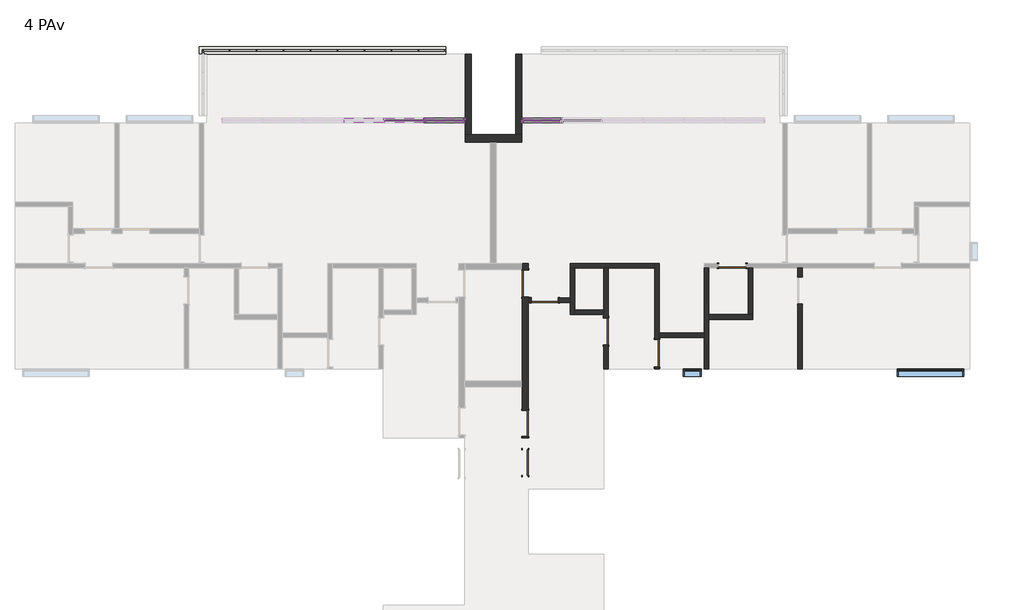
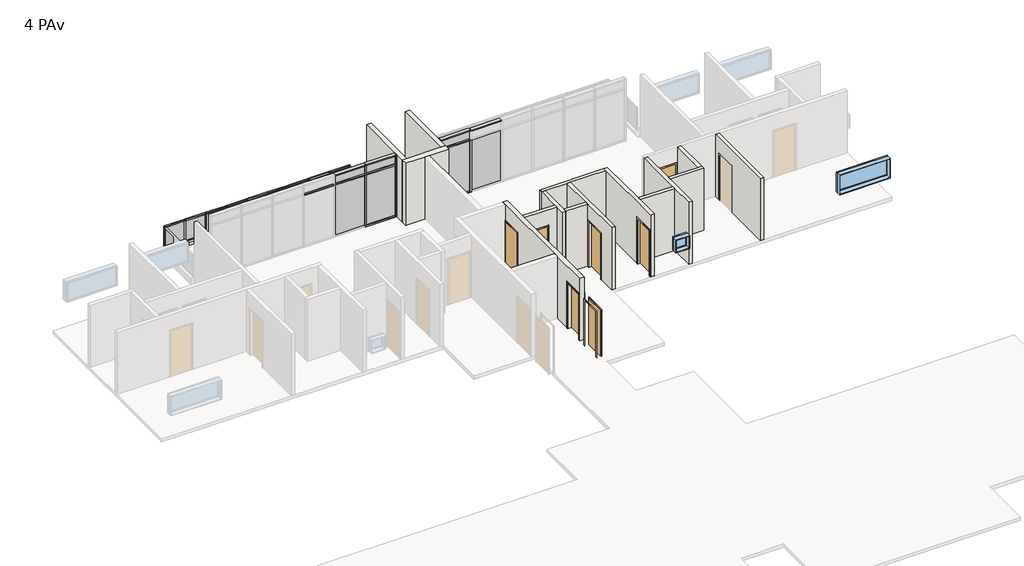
# One storey, part 5 of 6: 47 members, 17 plates, 16 walls, 7 doors, 2 windows.
"""IFC4 building model written with IfcOpenShell, lengths in millimetres."""

from ifc_helpers import new_model, si_unit, frame, origin, place, context, project, spatial, polyline, outline, extrude, faceted_brep, transform, mapped, element, save
from components import door_85_x_210_ba3adec2, door_85_x_210_7675e995, door_90_x_210_2c83007d, door_90_x_210_ee935524, door_90_x_210_565370b3, montante_retangular_50_mm_quadrado_4acded50, montante_retangular_50_mm_quadrado_237d7072, montante_retangular_50_mm_quadrado_84e40a56, montante_retangular_50_mm_quadrado_3d152aff, montante_retangular_50_mm_quadrado_a01005a4, montante_retangular_50_x_150_mm_6217edde, montante_retangular_50_x_150_mm_a22249d7, montante_retangular_50_x_150_mm_6225e4e3, montante_retangular_50_x_150_mm_662c37b1, montante_retangular_50_x_150_mm_567eccab, montante_retangular_50_x_150_mm_1ca2bba2, montante_retangular_50_x_150_mm_6abf4531, montante_retangular_50_x_150_mm_0a8c3443, painel_do_sistema_57ceaf50, painel_do_sistema_ab0ed719, painel_do_sistema_0196877a, painel_do_sistema_1ecb5f42, painel_do_sistema_49db1829, painel_do_sistema_5ea5287b, painel_do_sistema_7730abee, window_0610_x_0610_mm_b5667cc9, window_220_x_90_cea65aae

model = new_model("IFC4")

# Units and contexts
model_context = context("Model", 3, world=origin())
ifc_project = project(units=[si_unit("LENGTHUNIT", "METRE", prefix="MILLI")], contexts=[model_context])

# Site, building, storey
site = spatial("IfcSite", under=ifc_project)
building = spatial("IfcBuilding", under=site)
storey = spatial("IfcBuildingStorey", under=building, Name="4 PAv", Elevation=12000.0)

# Doors
placement = place(None, origin())
door_85_x_210_shape = door_85_x_210_ba3adec2(model_context)
element("IfcDoor", 1, ObjectType="M_Descarga simples : 85 x 210", at=placement, inside=storey, context=model_context, shape_type="MappedRepresentation", body=[
    mapped(door_85_x_210_shape, transform((23.7734258, 2728.6614625, 12000.0), x_axis=(0.0, 1.0, 0.0), y_axis=(-1.0, 0.0, 0.0), z_axis=(0.0, 0.0, 1.0))),
])
door_85_x_210_2_shape = door_85_x_210_7675e995(model_context)
element("IfcDoor", 2, ObjectType="M_Descarga simples : 85 x 210", at=placement, inside=storey, context=model_context, shape_type="MappedRepresentation", body=[
    mapped(door_85_x_210_2_shape, transform((23.7734258, 4028.6614625, 12000.0), x_axis=(0.0, -1.0, 0.0), y_axis=(1.0, 0.0, 0.0), z_axis=(0.0, 0.0, 1.0))),
])
door_90_x_210_shape = door_90_x_210_2c83007d(model_context)
element("IfcDoor", 3, ObjectType="M_Descarga simples : 90 x 210", at=placement, inside=storey, context=model_context, shape_type="MappedRepresentation", body=[
    mapped(door_90_x_210_shape, transform((23.7734258, 8673.2521762, 12000.0), x_axis=(0.0, 1.0, 0.0), y_axis=(-1.0, 0.0, 0.0), z_axis=(0.0, 0.0, 1.0))),
])
door_90_x_210_2_shape = door_90_x_210_ee935524(model_context)
element("IfcDoor", 4, ObjectType="M_Descarga simples : 90 x 210", at=placement, inside=storey, context=model_context, shape_type="MappedRepresentation", body=[
    mapped(door_90_x_210_2_shape, transform((673.7734258, 8118.6614625, 12000.0), x_axis=(-1.0, 0.0, 0.0), y_axis=(0.0, -1.0, 0.0), z_axis=(0.0, 0.0, 1.0))),
])
element("IfcDoor", 5, ObjectType="M_Descarga simples : 90 x 210", at=placement, inside=storey, context=model_context, shape_type="MappedRepresentation", body=[
    mapped(door_90_x_210_2_shape, transform((2698.7734258, 7083.6614625, 12000.0), x_axis=(0.0, -1.0, 0.0), y_axis=(1.0, 0.0, 0.0), z_axis=(0.0, 0.0, 1.0))),
])
element("IfcDoor", 6, ObjectType="M_Descarga simples : 90 x 210", at=placement, inside=storey, context=model_context, shape_type="MappedRepresentation", body=[
    mapped(door_90_x_210_2_shape, transform((4388.7734258, 6358.6614625, 12000.0), x_axis=(0.0, -1.0, 0.0), y_axis=(1.0, 0.0, 0.0), z_axis=(0.0, 0.0, 1.0))),
])
door_90_x_210_3_shape = door_90_x_210_565370b3(model_context)
element("IfcDoor", 7, ObjectType="M_Descarga simples : 90 x 210", at=placement, inside=storey, context=model_context, shape_type="MappedRepresentation", body=[
    mapped(door_90_x_210_3_shape, transform((6883.7734258, 9258.6614625, 12000.0), x_axis=(1.0, 0.0, 0.0), y_axis=(0.0, 1.0, 0.0), z_axis=(0.0, 0.0, 1.0))),
])

# Members
montante_retangular_50_mm_quadrado_shape = montante_retangular_50_mm_quadrado_4acded50(model_context)
element("IfcMember", 8, ObjectType="Montante retangular : 50 mm Quadrado", at=placement, inside=storey, context=model_context, shape_type="MappedRepresentation", body=[
    mapped(montante_retangular_50_mm_quadrado_shape, transform((-10616.2265742, 16403.6614625, 13150.0), x_axis=(0.0, 0.0, 1.0), y_axis=(0.0, 1.0, 0.0), z_axis=(-1.0, 0.0, 0.0))),
])
element("IfcMember", 9, ObjectType="Montante retangular : 50 mm Quadrado", at=placement, inside=storey, context=model_context, shape_type="MappedRepresentation", body=[
    mapped(montante_retangular_50_mm_quadrado_shape, transform((-3481.2265742, 16403.6614625, 13150.0), x_axis=(0.0, 0.0, 1.0), y_axis=(0.0, 1.0, 0.0), z_axis=(-1.0, 0.0, 0.0))),
])
montante_retangular_50_mm_quadrado_2_shape = montante_retangular_50_mm_quadrado_237d7072(model_context)
element("IfcMember", 10, ObjectType="Montante retangular : 50 mm Quadrado", at=placement, inside=storey, context=model_context, shape_type="MappedRepresentation", body=[
    mapped(montante_retangular_50_mm_quadrado_2_shape, transform((-4376.2265742, 16403.6614625, 13150.0), x_axis=(0.0, 0.0, 1.0), y_axis=(0.0, 1.0, 0.0), z_axis=(-1.0, 0.0, 0.0))),
])
element("IfcMember", 11, ObjectType="Montante retangular : 50 mm Quadrado", at=placement, inside=storey, context=model_context, shape_type="MappedRepresentation", body=[
    mapped(montante_retangular_50_mm_quadrado_2_shape, transform((-5271.2265742, 16403.6614625, 13150.0), x_axis=(0.0, 0.0, 1.0), y_axis=(0.0, 1.0, 0.0), z_axis=(-1.0, 0.0, 0.0))),
])
element("IfcMember", 12, ObjectType="Montante retangular : 50 mm Quadrado", at=placement, inside=storey, context=model_context, shape_type="MappedRepresentation", body=[
    mapped(montante_retangular_50_mm_quadrado_2_shape, transform((-6166.2265742, 16403.6614625, 13150.0), x_axis=(0.0, 0.0, 1.0), y_axis=(0.0, 1.0, 0.0), z_axis=(-1.0, 0.0, 0.0))),
])
element("IfcMember", 13, ObjectType="Montante retangular : 50 mm Quadrado", at=placement, inside=storey, context=model_context, shape_type="MappedRepresentation", body=[
    mapped(montante_retangular_50_mm_quadrado_2_shape, transform((-7061.2265742, 16403.6614625, 13150.0), x_axis=(0.0, 0.0, 1.0), y_axis=(0.0, 1.0, 0.0), z_axis=(-1.0, 0.0, 0.0))),
])
element("IfcMember", 14, ObjectType="Montante retangular : 50 mm Quadrado", at=placement, inside=storey, context=model_context, shape_type="MappedRepresentation", body=[
    mapped(montante_retangular_50_mm_quadrado_2_shape, transform((-7956.2265742, 16403.6614625, 13150.0), x_axis=(0.0, 0.0, 1.0), y_axis=(0.0, 1.0, 0.0), z_axis=(-1.0, 0.0, 0.0))),
])
element("IfcMember", 15, ObjectType="Montante retangular : 50 mm Quadrado", at=placement, inside=storey, context=model_context, shape_type="MappedRepresentation", body=[
    mapped(montante_retangular_50_mm_quadrado_2_shape, transform((-8851.2265742, 16403.6614625, 13150.0), x_axis=(0.0, 0.0, 1.0), y_axis=(0.0, 1.0, 0.0), z_axis=(-1.0, 0.0, 0.0))),
])
element("IfcMember", 16, ObjectType="Montante retangular : 50 mm Quadrado", at=placement, inside=storey, context=model_context, shape_type="MappedRepresentation", body=[
    mapped(montante_retangular_50_mm_quadrado_2_shape, transform((-9746.2265742, 16403.6614625, 13150.0), x_axis=(0.0, 0.0, 1.0), y_axis=(0.0, 1.0, 0.0), z_axis=(-1.0, 0.0, 0.0))),
])
element("IfcMember", 17, ObjectType="Montante retangular : 50 mm Quadrado", at=placement, inside=storey, context=model_context, shape_type="MappedRepresentation", body=[
    mapped(montante_retangular_50_mm_quadrado_shape, transform((-2661.2265742, 16403.6614625, 12150.0), x_axis=(0.0, 0.0, -1.0), y_axis=(0.0, 1.0, 0.0), z_axis=(1.0, 0.0, 0.0))),
])
element("IfcMember", 18, ObjectType="Montante retangular : 50 mm Quadrado", at=placement, inside=storey, context=model_context, shape_type="MappedRepresentation", body=[
    mapped(montante_retangular_50_mm_quadrado_shape, transform((-9796.2265742, 16403.6614625, 12150.0), x_axis=(0.0, 0.0, -1.0), y_axis=(0.0, 1.0, 0.0), z_axis=(1.0, 0.0, 0.0))),
])
element("IfcMember", 19, ObjectType="Montante retangular : 50 mm Quadrado", at=placement, inside=storey, context=model_context, shape_type="MappedRepresentation", body=[
    mapped(montante_retangular_50_mm_quadrado_2_shape, transform((-3531.2265742, 16403.6614625, 12150.0), x_axis=(0.0, 0.0, -1.0), y_axis=(0.0, 1.0, 0.0), z_axis=(1.0, 0.0, 0.0))),
])
element("IfcMember", 20, ObjectType="Montante retangular : 50 mm Quadrado", at=placement, inside=storey, context=model_context, shape_type="MappedRepresentation", body=[
    mapped(montante_retangular_50_mm_quadrado_2_shape, transform((-4426.2265742, 16403.6614625, 12150.0), x_axis=(0.0, 0.0, -1.0), y_axis=(0.0, 1.0, 0.0), z_axis=(1.0, 0.0, 0.0))),
])
element("IfcMember", 21, ObjectType="Montante retangular : 50 mm Quadrado", at=placement, inside=storey, context=model_context, shape_type="MappedRepresentation", body=[
    mapped(montante_retangular_50_mm_quadrado_2_shape, transform((-5321.2265742, 16403.6614625, 12150.0), x_axis=(0.0, 0.0, -1.0), y_axis=(0.0, 1.0, 0.0), z_axis=(1.0, 0.0, 0.0))),
])
element("IfcMember", 22, ObjectType="Montante retangular : 50 mm Quadrado", at=placement, inside=storey, context=model_context, shape_type="MappedRepresentation", body=[
    mapped(montante_retangular_50_mm_quadrado_2_shape, transform((-6216.2265742, 16403.6614625, 12150.0), x_axis=(0.0, 0.0, -1.0), y_axis=(0.0, 1.0, 0.0), z_axis=(1.0, 0.0, 0.0))),
])
element("IfcMember", 23, ObjectType="Montante retangular : 50 mm Quadrado", at=placement, inside=storey, context=model_context, shape_type="MappedRepresentation", body=[
    mapped(montante_retangular_50_mm_quadrado_2_shape, transform((-7111.2265742, 16403.6614625, 12150.0), x_axis=(0.0, 0.0, -1.0), y_axis=(0.0, 1.0, 0.0), z_axis=(1.0, 0.0, 0.0))),
])
element("IfcMember", 24, ObjectType="Montante retangular : 50 mm Quadrado", at=placement, inside=storey, context=model_context, shape_type="MappedRepresentation", body=[
    mapped(montante_retangular_50_mm_quadrado_2_shape, transform((-8006.2265742, 16403.6614625, 12150.0), x_axis=(0.0, 0.0, -1.0), y_axis=(0.0, 1.0, 0.0), z_axis=(1.0, 0.0, 0.0))),
])
element("IfcMember", 25, ObjectType="Montante retangular : 50 mm Quadrado", at=placement, inside=storey, context=model_context, shape_type="MappedRepresentation", body=[
    mapped(montante_retangular_50_mm_quadrado_2_shape, transform((-8901.2265742, 16403.6614625, 12150.0), x_axis=(0.0, 0.0, -1.0), y_axis=(0.0, 1.0, 0.0), z_axis=(1.0, 0.0, 0.0))),
])
montante_retangular_50_mm_quadrado_3_shape = montante_retangular_50_mm_quadrado_84e40a56(model_context)
element("IfcMember", 26, ObjectType="Montante retangular : 50 mm Quadrado", at=placement, inside=storey, context=model_context, shape_type="MappedRepresentation", body=[
    mapped(montante_retangular_50_mm_quadrado_3_shape, transform((-3506.2265742, 16403.6614625, 12150.0), x_axis=(-1.0, 0.0, 0.0), y_axis=(0.0, 1.0, 0.0), z_axis=(0.0, 0.0, -1.0))),
])
element("IfcMember", 27, ObjectType="Montante retangular : 50 mm Quadrado", at=placement, inside=storey, context=model_context, shape_type="MappedRepresentation", body=[
    mapped(montante_retangular_50_mm_quadrado_3_shape, transform((-4401.2265742, 16403.6614625, 12150.0), x_axis=(-1.0, 0.0, 0.0), y_axis=(0.0, 1.0, 0.0), z_axis=(0.0, 0.0, -1.0))),
])
element("IfcMember", 28, ObjectType="Montante retangular : 50 mm Quadrado", at=placement, inside=storey, context=model_context, shape_type="MappedRepresentation", body=[
    mapped(montante_retangular_50_mm_quadrado_3_shape, transform((-5296.2265742, 16403.6614625, 12150.0), x_axis=(-1.0, 0.0, 0.0), y_axis=(0.0, 1.0, 0.0), z_axis=(0.0, 0.0, -1.0))),
])
element("IfcMember", 29, ObjectType="Montante retangular : 50 mm Quadrado", at=placement, inside=storey, context=model_context, shape_type="MappedRepresentation", body=[
    mapped(montante_retangular_50_mm_quadrado_3_shape, transform((-6191.2265742, 16403.6614625, 12150.0), x_axis=(-1.0, 0.0, 0.0), y_axis=(0.0, 1.0, 0.0), z_axis=(0.0, 0.0, -1.0))),
])
element("IfcMember", 30, ObjectType="Montante retangular : 50 mm Quadrado", at=placement, inside=storey, context=model_context, shape_type="MappedRepresentation", body=[
    mapped(montante_retangular_50_mm_quadrado_3_shape, transform((-7086.2265742, 16403.6614625, 12150.0), x_axis=(-1.0, 0.0, 0.0), y_axis=(0.0, 1.0, 0.0), z_axis=(0.0, 0.0, -1.0))),
])
element("IfcMember", 31, ObjectType="Montante retangular : 50 mm Quadrado", at=placement, inside=storey, context=model_context, shape_type="MappedRepresentation", body=[
    mapped(montante_retangular_50_mm_quadrado_3_shape, transform((-7981.2265742, 16403.6614625, 12150.0), x_axis=(-1.0, 0.0, 0.0), y_axis=(0.0, 1.0, 0.0), z_axis=(0.0, 0.0, -1.0))),
])
element("IfcMember", 32, ObjectType="Montante retangular : 50 mm Quadrado", at=placement, inside=storey, context=model_context, shape_type="MappedRepresentation", body=[
    mapped(montante_retangular_50_mm_quadrado_3_shape, transform((-8876.2265742, 16403.6614625, 12150.0), x_axis=(-1.0, 0.0, 0.0), y_axis=(0.0, 1.0, 0.0), z_axis=(0.0, 0.0, -1.0))),
])
element("IfcMember", 33, ObjectType="Montante retangular : 50 mm Quadrado", at=placement, inside=storey, context=model_context, shape_type="MappedRepresentation", body=[
    mapped(montante_retangular_50_mm_quadrado_3_shape, transform((-9771.2265742, 16403.6614625, 12150.0), x_axis=(-1.0, 0.0, 0.0), y_axis=(0.0, 1.0, 0.0), z_axis=(0.0, 0.0, -1.0))),
])
montante_retangular_50_mm_quadrado_4_shape = montante_retangular_50_mm_quadrado_3d152aff(model_context)
element("IfcMember", 34, ObjectType="Montante retangular : 50 mm Quadrado", at=placement, inside=storey, context=model_context, shape_type="MappedRepresentation", body=[
    mapped(montante_retangular_50_mm_quadrado_4_shape, transform((-10666.2265742, 16403.6614625, 12150.0), x_axis=(-1.0, 0.0, 0.0), y_axis=(0.0, 1.0, 0.0), z_axis=(0.0, 0.0, -1.0))),
])
element("IfcMember", 35, ObjectType="Montante retangular : 50 mm Quadrado", at=placement, inside=storey, context=model_context, shape_type="MappedRepresentation", body=[
    mapped(montante_retangular_50_mm_quadrado_4_shape, transform((-10641.2265742, 16378.6614625, 13150.0), x_axis=(0.0, 1.0, 0.0), y_axis=(-1.0, 0.0, 0.0), z_axis=(0.0, 0.0, 1.0))),
])
element("IfcMember", 36, ObjectType="Montante retangular : 50 mm Quadrado", at=placement, inside=storey, context=model_context, shape_type="MappedRepresentation", body=[
    mapped(montante_retangular_50_mm_quadrado_4_shape, transform((-2611.2265742, 16403.6614625, 13150.0), x_axis=(1.0, 0.0, 0.0), y_axis=(0.0, 1.0, 0.0), z_axis=(0.0, 0.0, 1.0))),
])
montante_retangular_50_mm_quadrado_5_shape = montante_retangular_50_mm_quadrado_a01005a4(model_context)
element("IfcMember", 37, ObjectType="Montante retangular : 50 mm Quadrado", at=placement, inside=storey, context=model_context, shape_type="MappedRepresentation", body=[
    mapped(montante_retangular_50_mm_quadrado_5_shape, transform((-10641.2265742, 16328.6614625, 12150.0), x_axis=(0.0, 0.0, -1.0), y_axis=(-1.0, 0.0, 0.0), z_axis=(0.0, 1.0, 0.0))),
])
montante_retangular_50_x_150_mm_shape = montante_retangular_50_x_150_mm_6217edde(model_context)
element("IfcMember", 38, ObjectType="Montante retangular : 50 x 150 mm", at=placement, inside=storey, context=model_context, shape_type="MappedRepresentation", body=[
    mapped(montante_retangular_50_x_150_mm_shape, transform((-41.2265742, 14083.6614625, 14850.0), x_axis=(0.0, 0.0, 1.0), y_axis=(0.0, 1.0, 0.0), z_axis=(-1.0, 0.0, 0.0))),
])
montante_retangular_50_x_150_mm_2_shape = montante_retangular_50_x_150_mm_a22249d7(model_context)
element("IfcMember", 39, ObjectType="Montante retangular : 50 x 150 mm", at=placement, inside=storey, context=model_context, shape_type="MappedRepresentation", body=[
    mapped(montante_retangular_50_x_150_mm_2_shape, transform((1277.9400925, 14083.6614625, 14850.0), x_axis=(0.0, 0.0, 1.0), y_axis=(0.0, 1.0, 0.0), z_axis=(-1.0, 0.0, 0.0))),
])
element("IfcMember", 40, ObjectType="Montante retangular : 50 x 150 mm", at=placement, inside=storey, context=model_context, shape_type="MappedRepresentation", body=[
    mapped(montante_retangular_50_x_150_mm_shape, transform((1227.9400925, 14083.6614625, 12000.0), x_axis=(0.0, 0.0, -1.0), y_axis=(0.0, 1.0, 0.0), z_axis=(1.0, 0.0, 0.0))),
])
element("IfcMember", 41, ObjectType="Montante retangular : 50 x 150 mm", at=placement, inside=storey, context=model_context, shape_type="MappedRepresentation", body=[
    mapped(montante_retangular_50_x_150_mm_shape, transform((-2011.2265742, 14083.6614625, 14850.0), x_axis=(0.0, 0.0, 1.0), y_axis=(0.0, -1.0, 0.0), z_axis=(1.0, 0.0, 0.0))),
])
element("IfcMember", 42, ObjectType="Montante retangular : 50 x 150 mm", at=placement, inside=storey, context=model_context, shape_type="MappedRepresentation", body=[
    mapped(montante_retangular_50_x_150_mm_2_shape, transform((-3330.3932408, 14083.6614625, 14850.0), x_axis=(0.0, 0.0, 1.0), y_axis=(0.0, -1.0, 0.0), z_axis=(1.0, 0.0, 0.0))),
])
element("IfcMember", 43, ObjectType="Montante retangular : 50 x 150 mm", at=placement, inside=storey, context=model_context, shape_type="MappedRepresentation", body=[
    mapped(montante_retangular_50_x_150_mm_shape, transform((-3280.3932408, 14083.6614625, 12000.0), x_axis=(0.0, 0.0, -1.0), y_axis=(0.0, -1.0, 0.0), z_axis=(-1.0, 0.0, 0.0))),
])
montante_retangular_50_x_150_mm_3_shape = montante_retangular_50_x_150_mm_6225e4e3(model_context)
element("IfcMember", 44, ObjectType="Montante retangular : 50 x 150 mm", at=placement, inside=storey, context=model_context, shape_type="MappedRepresentation", body=[
    mapped(montante_retangular_50_x_150_mm_3_shape, transform((-3305.3932408, 14083.6614625, 12000.0), x_axis=(1.0, 0.0, 0.0), y_axis=(0.0, -1.0, 0.0), z_axis=(0.0, 0.0, -1.0))),
])
montante_retangular_50_x_150_mm_4_shape = montante_retangular_50_x_150_mm_662c37b1(model_context)
element("IfcMember", 45, ObjectType="Montante retangular : 50 x 150 mm", at=placement, inside=storey, context=model_context, shape_type="MappedRepresentation", body=[
    mapped(montante_retangular_50_x_150_mm_4_shape, transform((-1961.2265742, 14083.6614625, 12000.0), x_axis=(1.0, 0.0, 0.0), y_axis=(0.0, -1.0, 0.0), z_axis=(0.0, 0.0, -1.0))),
])
element("IfcMember", 46, ObjectType="Montante retangular : 50 x 150 mm", at=placement, inside=storey, context=model_context, shape_type="MappedRepresentation", body=[
    mapped(montante_retangular_50_x_150_mm_3_shape, transform((1252.9400925, 14083.6614625, 12000.0), x_axis=(-1.0, 0.0, 0.0), y_axis=(0.0, 1.0, 0.0), z_axis=(0.0, 0.0, -1.0))),
])
element("IfcMember", 47, ObjectType="Montante retangular : 50 x 150 mm", at=placement, inside=storey, context=model_context, shape_type="MappedRepresentation", body=[
    mapped(montante_retangular_50_x_150_mm_4_shape, transform((-91.2265742, 14083.6614625, 12000.0), x_axis=(-1.0, 0.0, 0.0), y_axis=(0.0, 1.0, 0.0), z_axis=(0.0, 0.0, -1.0))),
])
montante_retangular_50_x_150_mm_5_shape = montante_retangular_50_x_150_mm_567eccab(model_context)
element("IfcMember", 48, ObjectType="Montante retangular : 50 x 150 mm", at=placement, inside=storey, context=model_context, shape_type="MappedRepresentation", body=[
    mapped(montante_retangular_50_x_150_mm_5_shape, transform((-3305.3932408, 14083.6614625, 14400.0), x_axis=(1.0, 0.0, 0.0), y_axis=(0.0, -1.0, 0.0), z_axis=(0.0, 0.0, -1.0))),
])
montante_retangular_50_x_150_mm_6_shape = montante_retangular_50_x_150_mm_1ca2bba2(model_context)
element("IfcMember", 49, ObjectType="Montante retangular : 50 x 150 mm", at=placement, inside=storey, context=model_context, shape_type="MappedRepresentation", body=[
    mapped(montante_retangular_50_x_150_mm_6_shape, transform((-2011.2265742, 14083.6614625, 14400.0), x_axis=(0.0, 0.0, 1.0), y_axis=(0.0, -1.0, 0.0), z_axis=(1.0, 0.0, 0.0))),
])
montante_retangular_50_x_150_mm_7_shape = montante_retangular_50_x_150_mm_6abf4531(model_context)
element("IfcMember", 50, ObjectType="Montante retangular : 50 x 150 mm", at=placement, inside=storey, context=model_context, shape_type="MappedRepresentation", body=[
    mapped(montante_retangular_50_x_150_mm_7_shape, transform((-4674.5599075, 14083.6614625, 14400.0), x_axis=(0.0, 0.0, 1.0), y_axis=(0.0, -1.0, 0.0), z_axis=(1.0, 0.0, 0.0))),
])
element("IfcMember", 51, ObjectType="Montante retangular : 50 x 150 mm", at=placement, inside=storey, context=model_context, shape_type="MappedRepresentation", body=[
    mapped(montante_retangular_50_x_150_mm_7_shape, transform((-3330.3932408, 14083.6614625, 14400.0), x_axis=(0.0, 0.0, 1.0), y_axis=(0.0, -1.0, 0.0), z_axis=(1.0, 0.0, 0.0))),
])
element("IfcMember", 52, ObjectType="Montante retangular : 50 x 150 mm", at=placement, inside=storey, context=model_context, shape_type="MappedRepresentation", body=[
    mapped(montante_retangular_50_x_150_mm_6_shape, transform((-41.2265742, 14083.6614625, 14400.0), x_axis=(0.0, 0.0, 1.0), y_axis=(0.0, 1.0, 0.0), z_axis=(-1.0, 0.0, 0.0))),
])
montante_retangular_50_x_150_mm_8_shape = montante_retangular_50_x_150_mm_0a8c3443(model_context)
element("IfcMember", 53, ObjectType="Montante retangular : 50 x 150 mm", at=placement, inside=storey, context=model_context, shape_type="MappedRepresentation", body=[
    mapped(montante_retangular_50_x_150_mm_8_shape, transform((-91.2265742, 14083.6614625, 14400.0), x_axis=(-1.0, 0.0, 0.0), y_axis=(0.0, 1.0, 0.0), z_axis=(0.0, 0.0, -1.0))),
])
element("IfcMember", 54, ObjectType="Montante retangular : 50 x 150 mm", at=placement, inside=storey, context=model_context, shape_type="MappedRepresentation", body=[
    mapped(montante_retangular_50_x_150_mm_8_shape, transform((-1961.2265742, 14083.6614625, 14400.0), x_axis=(1.0, 0.0, 0.0), y_axis=(0.0, -1.0, 0.0), z_axis=(0.0, 0.0, -1.0))),
])

# Plates
painel_do_sistema_shape = painel_do_sistema_57ceaf50(model_context)
element("IfcPlate", 55, ObjectType="Painel do sistema : Envidraçado", at=placement, inside=storey, context=model_context, shape_type="MappedRepresentation", body=[
    mapped(painel_do_sistema_shape, transform((-3071.2265742, 16403.6614625, 12200.0), x_axis=(-1.0, 0.0, 0.0), y_axis=(0.0, -1.0, 0.0), z_axis=(0.0, 0.0, 1.0))),
])
element("IfcPlate", 56, ObjectType="Painel do sistema : Envidraçado", at=placement, inside=storey, context=model_context, shape_type="MappedRepresentation", body=[
    mapped(painel_do_sistema_shape, transform((-10206.2265742, 16403.6614625, 12200.0), x_axis=(-1.0, 0.0, 0.0), y_axis=(0.0, -1.0, 0.0), z_axis=(0.0, 0.0, 1.0))),
])
painel_do_sistema_2_shape = painel_do_sistema_ab0ed719(model_context)
element("IfcPlate", 57, ObjectType="Painel do sistema : Envidraçado", at=placement, inside=storey, context=model_context, shape_type="MappedRepresentation", body=[
    mapped(painel_do_sistema_2_shape, transform((-3953.7265742, 16403.6614625, 12200.0), x_axis=(-1.0, 0.0, 0.0), y_axis=(0.0, -1.0, 0.0), z_axis=(0.0, 0.0, 1.0))),
])
element("IfcPlate", 58, ObjectType="Painel do sistema : Envidraçado", at=placement, inside=storey, context=model_context, shape_type="MappedRepresentation", body=[
    mapped(painel_do_sistema_2_shape, transform((-4848.7265742, 16403.6614625, 12200.0), x_axis=(-1.0, 0.0, 0.0), y_axis=(0.0, -1.0, 0.0), z_axis=(0.0, 0.0, 1.0))),
])
element("IfcPlate", 59, ObjectType="Painel do sistema : Envidraçado", at=placement, inside=storey, context=model_context, shape_type="MappedRepresentation", body=[
    mapped(painel_do_sistema_2_shape, transform((-5743.7265742, 16403.6614625, 12200.0), x_axis=(-1.0, 0.0, 0.0), y_axis=(0.0, -1.0, 0.0), z_axis=(0.0, 0.0, 1.0))),
])
element("IfcPlate", 60, ObjectType="Painel do sistema : Envidraçado", at=placement, inside=storey, context=model_context, shape_type="MappedRepresentation", body=[
    mapped(painel_do_sistema_2_shape, transform((-6638.7265742, 16403.6614625, 12200.0), x_axis=(-1.0, 0.0, 0.0), y_axis=(0.0, -1.0, 0.0), z_axis=(0.0, 0.0, 1.0))),
])
element("IfcPlate", 61, ObjectType="Painel do sistema : Envidraçado", at=placement, inside=storey, context=model_context, shape_type="MappedRepresentation", body=[
    mapped(painel_do_sistema_2_shape, transform((-7533.7265742, 16403.6614625, 12200.0), x_axis=(-1.0, 0.0, 0.0), y_axis=(0.0, -1.0, 0.0), z_axis=(0.0, 0.0, 1.0))),
])
element("IfcPlate", 62, ObjectType="Painel do sistema : Envidraçado", at=placement, inside=storey, context=model_context, shape_type="MappedRepresentation", body=[
    mapped(painel_do_sistema_2_shape, transform((-8428.7265742, 16403.6614625, 12200.0), x_axis=(-1.0, 0.0, 0.0), y_axis=(0.0, -1.0, 0.0), z_axis=(0.0, 0.0, 1.0))),
])
element("IfcPlate", 63, ObjectType="Painel do sistema : Envidraçado", at=placement, inside=storey, context=model_context, shape_type="MappedRepresentation", body=[
    mapped(painel_do_sistema_2_shape, transform((-9323.7265742, 16403.6614625, 12200.0), x_axis=(-1.0, 0.0, 0.0), y_axis=(0.0, -1.0, 0.0), z_axis=(0.0, 0.0, 1.0))),
])
painel_do_sistema_3_shape = painel_do_sistema_0196877a(model_context)
element("IfcPlate", 64, ObjectType="Painel do sistema : Envidraçado", at=placement, inside=storey, context=model_context, shape_type="MappedRepresentation", body=[
    mapped(painel_do_sistema_3_shape, transform((-10641.2265742, 16008.6614625, 12200.0), x_axis=(0.0, -1.0, 0.0), y_axis=(1.0, 0.0, 0.0), z_axis=(0.0, 0.0, 1.0))),
])
painel_do_sistema_4_shape = painel_do_sistema_1ecb5f42(model_context)
element("IfcPlate", 65, ObjectType="Painel do sistema : Envidraçado", at=placement, inside=storey, context=model_context, shape_type="MappedRepresentation", body=[
    mapped(painel_do_sistema_4_shape, transform((-2645.8099075, 14083.6614625, 12050.0), x_axis=(1.0, 0.0, 0.0), y_axis=(0.0, 1.0, 0.0), z_axis=(0.0, 0.0, 1.0))),
])
painel_do_sistema_5_shape = painel_do_sistema_49db1829(model_context)
element("IfcPlate", 66, ObjectType="Painel do sistema : Envidraçado", at=placement, inside=storey, context=model_context, shape_type="MappedRepresentation", body=[
    mapped(painel_do_sistema_5_shape, transform((-3977.4765742, 14083.6614625, 12050.0), x_axis=(1.0, 0.0, 0.0), y_axis=(0.0, 1.0, 0.0), z_axis=(0.0, 0.0, 1.0))),
])
painel_do_sistema_6_shape = painel_do_sistema_5ea5287b(model_context)
element("IfcPlate", 67, ObjectType="Painel do sistema : Envidraçado", at=placement, inside=storey, context=model_context, shape_type="MappedRepresentation", body=[
    mapped(painel_do_sistema_6_shape, transform((-2645.8099075, 14083.6614625, 14425.0), x_axis=(1.0, 0.0, 0.0), y_axis=(0.0, 1.0, 0.0), z_axis=(0.0, 0.0, 1.0))),
])
painel_do_sistema_7_shape = painel_do_sistema_7730abee(model_context)
element("IfcPlate", 68, ObjectType="Painel do sistema : Envidraçado", at=placement, inside=storey, context=model_context, shape_type="MappedRepresentation", body=[
    mapped(painel_do_sistema_7_shape, transform((-3977.4765742, 14083.6614625, 14425.0), x_axis=(1.0, 0.0, 0.0), y_axis=(0.0, 1.0, 0.0), z_axis=(0.0, 0.0, 1.0))),
])
element("IfcPlate", 69, ObjectType="Painel do sistema : Envidraçado", at=placement, inside=storey, context=model_context, shape_type="MappedRepresentation", body=[
    mapped(painel_do_sistema_4_shape, transform((593.3567592, 14083.6614625, 12050.0), x_axis=(-1.0, 0.0, 0.0), y_axis=(0.0, -1.0, 0.0), z_axis=(0.0, 0.0, 1.0))),
])
element("IfcPlate", 70, ObjectType="Painel do sistema : Envidraçado", at=placement, inside=storey, context=model_context, shape_type="MappedRepresentation", body=[
    mapped(painel_do_sistema_5_shape, transform((1925.0234258, 14083.6614625, 12050.0), x_axis=(-1.0, 0.0, 0.0), y_axis=(0.0, -1.0, 0.0), z_axis=(0.0, 0.0, 1.0))),
])
element("IfcPlate", 71, ObjectType="Painel do sistema : Envidraçado", at=placement, inside=storey, context=model_context, shape_type="MappedRepresentation", body=[
    mapped(painel_do_sistema_6_shape, transform((593.3567592, 14083.6614625, 14425.0), x_axis=(-1.0, 0.0, 0.0), y_axis=(0.0, -1.0, 0.0), z_axis=(0.0, 0.0, 1.0))),
])

# Walls
element("IfcWall", 72, ObjectType="Exeterna 25", at=placement, inside=storey, context=model_context, shape_type="Brep", body=[
    faceted_brep([(-2611.2265742, 16528.6614625, 11850.0), (-10766.2265742, 16528.6614625, 11850.0), (-10766.2265742, 16528.6614625, 12150.0), (-2611.2265742, 16528.6614625, 12150.0), (-2611.2265742, 16278.6614625, 11850.0), (-2611.2265742, 16278.6614625, 12150.0), (-10516.2265742, 16278.6614625, 12150.0), (-10766.2265742, 16278.6614625, 12150.0), (-10766.2265742, 16278.6614625, 11850.0), (-10516.2265742, 16278.6614625, 11850.0)], [[[0, 1, 2, 3]], [[4, 5, 6, 7, 8, 9]], [[1, 0, 4, 9, 8]], [[3, 2, 7, 6, 5]], [[0, 3, 5, 4]], [[2, 1, 8, 7]]]),
])
element("IfcWall", 73, ObjectType="Exeterna 25", at=placement, inside=storey, context=model_context, shape_type="Brep", body=[
    faceted_brep([(-1961.2265742, 13353.6614625, 12000.0), (-1126.2265742, 13353.6614625, 12000.0), (-926.2265742, 13353.6614625, 12000.0), (-91.2265742, 13353.6614625, 12000.0), (-91.2265742, 13353.6614625, 14850.0), (-926.2265742, 13353.6614625, 14850.0), (-1126.2265742, 13353.6614625, 14850.0), (-1961.2265742, 13353.6614625, 14850.0), (-1961.2265742, 13603.6614625, 12000.0), (-1961.2265742, 13603.6614625, 14850.0), (-1761.2265742, 13603.6614625, 14850.0), (-291.2265742, 13603.6614625, 14850.0), (-91.2265742, 13603.6614625, 14850.0), (-91.2265742, 13603.6614625, 12000.0), (-291.2265742, 13603.6614625, 12000.0), (-1761.2265742, 13603.6614625, 12000.0)], [[[0, 1, 2, 3, 4, 5, 6, 7]], [[8, 9, 10, 11, 12, 13, 14, 15]], [[3, 2, 1, 0, 8, 15, 14, 13]], [[7, 6, 5, 4, 12, 11, 10, 9]], [[0, 7, 9, 8]], [[4, 3, 13, 12]]]),
])
element("IfcWall", 74, ObjectType="Interna 15", at=placement, inside=storey, context=model_context, shape_type="Brep", body=[
    faceted_brep([(5963.7734258, 9183.6614625, 12000.0), (5963.7734258, 7033.6614625, 12000.0), (5963.7734258, 6883.6614625, 12000.0), (5963.7734258, 5833.6614625, 12000.0), (5963.7734258, 5833.6614625, 14850.0), (5963.7734258, 6883.6614625, 14850.0), (5963.7734258, 7033.6614625, 14850.0), (5963.7734258, 9183.6614625, 14850.0), (6113.7734258, 9183.6614625, 12000.0), (6113.7734258, 9183.6614625, 14850.0), (6113.7734258, 7633.6614625, 14850.0), (6113.7734258, 7483.6614625, 14850.0), (6113.7734258, 5833.6614625, 14850.0), (6113.7734258, 5833.6614625, 12000.0), (6113.7734258, 7483.6614625, 12000.0), (6113.7734258, 7633.6614625, 12000.0)], [[[0, 1, 2, 3, 4, 5, 6, 7]], [[8, 9, 10, 11, 12, 13, 14, 15]], [[3, 2, 1, 0, 8, 15, 14, 13]], [[7, 6, 5, 4, 12, 11, 10, 9]], [[0, 7, 9, 8]], [[4, 3, 13, 12]]]),
])
element("IfcWall", 75, ObjectType="Interna 15", at=placement, inside=storey, context=model_context, shape_type="Brep", body=[
    faceted_brep([(6113.7734258, 7483.6614625, 12000.0), (7563.7734258, 7483.6614625, 12000.0), (7563.7734258, 7483.6614625, 14850.0), (6113.7734258, 7483.6614625, 14850.0), (6113.7734258, 7633.6614625, 12000.0), (6113.7734258, 7633.6614625, 14850.0), (7413.7734258, 7633.6614625, 14850.0), (7563.7734258, 7633.6614625, 14850.0), (7563.7734258, 7633.6614625, 12000.0), (7413.7734258, 7633.6614625, 12000.0)], [[[0, 1, 2, 3]], [[4, 5, 6, 7, 8, 9]], [[1, 0, 4, 9, 8]], [[3, 2, 7, 6, 5]], [[0, 3, 5, 4]], [[2, 1, 8, 7]]]),
])
element("IfcWall", 76, ObjectType="Interna 15", at=placement, inside=storey, context=model_context, shape_type="SweptSolid", body=[
    extrude(outline(polyline([(7563.7734258, 9183.6614625), (7563.7734258, 7633.6614625), (7413.7734258, 7633.6614625), (7413.7734258, 9183.6614625), (7563.7734258, 9183.6614625)])), frame((0.0, 0.0, 12000.0), z_axis=(0.0, 0.0, 1.0), x_axis=(1.0, 0.0, 0.0)), (0.0, 0.0, 1.0), 2850.0),
])
element("IfcWall", 77, ObjectType="Interna 15", at=placement, inside=storey, context=model_context, shape_type="SweptSolid", body=[
    extrude(outline(polyline([(9183.6614625, 12000.0), (8883.6614625, 12000.0), (8883.6614625, 14100.0), (7983.6614625, 14100.0), (7983.6614625, 12000.0), (5833.6614625, 12000.0), (5833.6614625, 14850.0), (9183.6614625, 14850.0), (9183.6614625, 12000.0)])), frame((9063.7734258, 0.0, 0.0), z_axis=(1.0, 0.0, 0.0), x_axis=(0.0, 1.0, 0.0)), (0.0, 0.0, 1.0), 150.0),
])
element("IfcWall", 78, ObjectType="Interna 15", at=placement, inside=storey, context=model_context, shape_type="SweptSolid", body=[
    extrude(outline(polyline([(4463.7734258, 7033.6614625), (5963.7734258, 7033.6614625), (5963.7734258, 6883.6614625), (4463.7734258, 6883.6614625), (4463.7734258, 7033.6614625)])), frame((0.0, 0.0, 12000.0), z_axis=(0.0, 0.0, 1.0), x_axis=(1.0, 0.0, 0.0)), (0.0, 0.0, 1.0), 2850.0),
])
element("IfcWall", 79, ObjectType="Interna 15", at=placement, inside=storey, context=model_context, shape_type="Brep", body=[
    faceted_brep([(4463.7734258, 5833.6614625, 12000.0), (4463.7734258, 5908.6614625, 12000.0), (4463.7734258, 5908.6614625, 14100.0), (4463.7734258, 6808.6614625, 14100.0), (4463.7734258, 6808.6614625, 12000.0), (4463.7734258, 6883.6614625, 12000.0), (4463.7734258, 7033.6614625, 12000.0), (4463.7734258, 9333.6614625, 12000.0), (4463.7734258, 9333.6614625, 14850.0), (4463.7734258, 7033.6614625, 14850.0), (4463.7734258, 6883.6614625, 14850.0), (4463.7734258, 5833.6614625, 14850.0), (4313.7734258, 5908.6614625, 14100.0), (4313.7734258, 5908.6614625, 12000.0), (4313.7734258, 5833.6614625, 12000.0), (4313.7734258, 5833.6614625, 14850.0), (4313.7734258, 9183.6614625, 14850.0), (4313.7734258, 9333.6614625, 14850.0), (4313.7734258, 9333.6614625, 12000.0), (4313.7734258, 9183.6614625, 12000.0), (4313.7734258, 6808.6614625, 12000.0), (4313.7734258, 6808.6614625, 14100.0)], [[[0, 1, 2, 3, 4, 5, 6, 7, 8, 9, 10, 11]], [[12, 13, 14, 15, 16, 17, 18, 19, 20, 21]], [[14, 13, 1, 0]], [[20, 19, 18, 7, 6, 5, 4]], [[11, 10, 9, 8, 17, 16, 15]], [[8, 7, 18, 17]], [[2, 1, 13, 12]], [[3, 2, 12, 21]], [[4, 3, 21, 20]], [[0, 11, 15, 14]]]),
])
element("IfcWall", 80, ObjectType="Interna 15", at=placement, inside=storey, context=model_context, shape_type="Brep", body=[
    faceted_brep([(4313.7734258, 9333.6614625, 12000.0), (1523.7734258, 9333.6614625, 12000.0), (1523.7734258, 9333.6614625, 14850.0), (4313.7734258, 9333.6614625, 14850.0), (4313.7734258, 9183.6614625, 12000.0), (4313.7734258, 9183.6614625, 14850.0), (2773.7734258, 9183.6614625, 14850.0), (2623.7734258, 9183.6614625, 14850.0), (1673.7734258, 9183.6614625, 14850.0), (1523.7734258, 9183.6614625, 14850.0), (1523.7734258, 9183.6614625, 12000.0), (1673.7734258, 9183.6614625, 12000.0), (2623.7734258, 9183.6614625, 12000.0), (2773.7734258, 9183.6614625, 12000.0)], [[[0, 1, 2, 3]], [[4, 5, 6, 7, 8, 9, 10, 11, 12, 13]], [[1, 0, 4, 13, 12, 11, 10]], [[3, 2, 9, 8, 7, 6, 5]], [[0, 3, 5, 4]], [[2, 1, 10, 9]]]),
])
element("IfcWall", 81, ObjectType="Interna 15", at=placement, inside=storey, context=model_context, shape_type="Brep", body=[
    faceted_brep([(2623.7734258, 6633.6614625, 14100.0), (2623.7734258, 6633.6614625, 12000.0), (2623.7734258, 5833.6614625, 12000.0), (2623.7734258, 5833.6614625, 14850.0), (2623.7734258, 7633.6614625, 14850.0), (2623.7734258, 7783.6614625, 14850.0), (2623.7734258, 9183.6614625, 14850.0), (2623.7734258, 9183.6614625, 12000.0), (2623.7734258, 7783.6614625, 12000.0), (2623.7734258, 7633.6614625, 12000.0), (2623.7734258, 7533.6614625, 12000.0), (2623.7734258, 7533.6614625, 14100.0), (2773.7734258, 5833.6614625, 12000.0), (2773.7734258, 6633.6614625, 12000.0), (2773.7734258, 6633.6614625, 14100.0), (2773.7734258, 7533.6614625, 14100.0), (2773.7734258, 7533.6614625, 12000.0), (2773.7734258, 9183.6614625, 12000.0), (2773.7734258, 9183.6614625, 14850.0), (2773.7734258, 5833.6614625, 14850.0)], [[[0, 1, 2, 3, 4, 5, 6, 7, 8, 9, 10, 11]], [[12, 13, 14, 15, 16, 17, 18, 19]], [[2, 1, 13, 12]], [[10, 9, 8, 7, 17, 16]], [[6, 5, 4, 3, 19, 18]], [[7, 6, 18, 17]], [[14, 13, 1, 0]], [[15, 14, 0, 11]], [[16, 15, 11, 10]], [[3, 2, 12, 19]]]),
])
element("IfcWall", 82, ObjectType="Interna 15", at=placement, inside=storey, context=model_context, shape_type="Brep", body=[
    faceted_brep([(1523.7734258, 9183.6614625, 12000.0), (1523.7734258, 8193.6614625, 12000.0), (1523.7734258, 8043.6614625, 12000.0), (1523.7734258, 7633.6614625, 12000.0), (1523.7734258, 7633.6614625, 14850.0), (1523.7734258, 8043.6614625, 14850.0), (1523.7734258, 8193.6614625, 14850.0), (1523.7734258, 9183.6614625, 14850.0), (1673.7734258, 9183.6614625, 12000.0), (1673.7734258, 9183.6614625, 14850.0), (1673.7734258, 7783.6614625, 14850.0), (1673.7734258, 7633.6614625, 14850.0), (1673.7734258, 7633.6614625, 12000.0), (1673.7734258, 7783.6614625, 12000.0)], [[[0, 1, 2, 3, 4, 5, 6, 7]], [[8, 9, 10, 11, 12, 13]], [[3, 2, 1, 0, 8, 13, 12]], [[7, 6, 5, 4, 11, 10, 9]], [[4, 3, 12, 11]], [[0, 7, 9, 8]]]),
])
element("IfcWall", 83, ObjectType="Interna 15", at=placement, inside=storey, context=model_context, shape_type="SweptSolid", body=[
    extrude(outline(polyline([(2623.7734258, 7633.6614625), (1673.7734258, 7633.6614625), (1673.7734258, 7783.6614625), (2623.7734258, 7783.6614625), (2623.7734258, 7633.6614625)])), frame((0.0, 0.0, 12000.0), z_axis=(0.0, 0.0, 1.0), x_axis=(1.0, 0.0, 0.0)), (0.0, 0.0, 1.0), 2850.0),
])
element("IfcWall", 84, ObjectType="Interna 15", at=placement, inside=storey, context=model_context, shape_type="SweptSolid", body=[
    extrude(outline(polyline([(12000.0, 123.7734258), (12000.0, 223.7734258), (14100.0, 223.7734258), (14100.0, 1123.7734258), (12000.0, 1123.7734258), (12000.0, 1523.7734258), (14850.0, 1523.7734258), (14850.0, 123.7734258), (12000.0, 123.7734258)])), frame((0.0, 8043.6614625, 0.0), z_axis=(0.0, 1.0, 0.0), x_axis=(0.0, 0.0, 1.0)), (0.0, 0.0, 1.0), 150.0),
])
element("IfcWall", 85, ObjectType="Interna 20", at=placement, inside=storey, context=model_context, shape_type="Brep", body=[
    faceted_brep([(-76.2265742, 9333.6614625, 12000.0), (-76.2265742, 9133.6614625, 12000.0), (-76.2265742, 9123.2521762, 12000.0), (-76.2265742, 9123.2521762, 14100.0), (-76.2265742, 8223.2521762, 14100.0), (-76.2265742, 8223.2521762, 12000.0), (-76.2265742, 5433.6614625, 12000.0), (-76.2265742, 5233.6614625, 12000.0), (-76.2265742, 4453.6614625, 12000.0), (-76.2265742, 4453.6614625, 14100.0), (-76.2265742, 3603.6614625, 14100.0), (-76.2265742, 3603.6614625, 12000.0), (-76.2265742, 3543.6614625, 12000.0), (-76.2265742, 3543.6614625, 14850.0), (-76.2265742, 5233.6614625, 14850.0), (-76.2265742, 5433.6614625, 14850.0), (-76.2265742, 9133.6614625, 14850.0), (-76.2265742, 9333.6614625, 14850.0), (123.7734258, 9123.2521762, 14100.0), (123.7734258, 9123.2521762, 12000.0), (123.7734258, 9333.6614625, 12000.0), (123.7734258, 9333.6614625, 14850.0), (123.7734258, 8193.6614625, 14850.0), (123.7734258, 8043.6614625, 14850.0), (123.7734258, 3543.6614625, 14850.0), (123.7734258, 3543.6614625, 12000.0), (123.7734258, 3603.6614625, 12000.0), (123.7734258, 3603.6614625, 14100.0), (123.7734258, 4453.6614625, 14100.0), (123.7734258, 4453.6614625, 12000.0), (123.7734258, 8043.6614625, 12000.0), (123.7734258, 8193.6614625, 12000.0), (123.7734258, 8223.2521762, 12000.0), (123.7734258, 8223.2521762, 14100.0)], [[[0, 1, 2, 3, 4, 5, 6, 7, 8, 9, 10, 11, 12, 13, 14, 15, 16, 17]], [[18, 19, 20, 21, 22, 23, 24, 25, 26, 27, 28, 29, 30, 31, 32, 33]], [[12, 11, 26, 25]], [[20, 19, 2, 1, 0]], [[32, 31, 30, 29, 8, 7, 6, 5]], [[17, 16, 15, 14, 13, 24, 23, 22, 21]], [[0, 17, 21, 20]], [[27, 26, 11, 10]], [[28, 27, 10, 9]], [[29, 28, 9, 8]], [[3, 2, 19, 18]], [[4, 3, 18, 33]], [[5, 4, 33, 32]], [[13, 12, 25, 24]]]),
])
element("IfcWall", 86, ObjectType="Interna 20", at=placement, inside=storey, context=model_context, shape_type="SweptSolid", body=[
    extrude(outline(polyline([(-91.2265742, 16278.6614625), (-91.2265742, 13603.6614625), (-291.2265742, 13603.6614625), (-291.2265742, 16278.6614625), (-91.2265742, 16278.6614625)])), frame((0.0, 0.0, 12000.0), z_axis=(0.0, 0.0, 1.0), x_axis=(1.0, 0.0, 0.0)), (0.0, 0.0, 1.0), 2850.0),
])
element("IfcWall", 87, ObjectType="Interna 20", at=placement, inside=storey, context=model_context, shape_type="SweptSolid", body=[
    extrude(outline(polyline([(-1761.2265742, 16278.6614625), (-1761.2265742, 13603.6614625), (-1961.2265742, 13603.6614625), (-1961.2265742, 16278.6614625), (-1761.2265742, 16278.6614625)])), frame((0.0, 0.0, 12000.0), z_axis=(0.0, 0.0, 1.0), x_axis=(1.0, 0.0, 0.0)), (0.0, 0.0, 1.0), 2850.0),
])

# Windows
window_0610_x_0610_mm_shape = window_0610_x_0610_mm_b5667cc9(model_context)
element("IfcWindow", 88, ObjectType="M_Fixado : 0610 x 0610 mm", at=placement, inside=storey, context=model_context, shape_type="MappedRepresentation", body=[
    mapped(window_0610_x_0610_mm_shape, transform((5563.7734258, 5695.6614625, 12000.0), x_axis=(-1.0, 0.0, 0.0), y_axis=(0.0, -1.0, 0.0), z_axis=(0.0, 0.0, 1.0))),
])
window_220_x_90_shape = window_220_x_90_cea65aae(model_context)
element("IfcWindow", 89, ObjectType="M_Fixado : 220 x 90", at=placement, inside=storey, context=model_context, shape_type="MappedRepresentation", body=[
    mapped(window_220_x_90_shape, transform((13463.7734258, 5695.6614625, 12185.0), x_axis=(1.0, 0.0, 0.0), y_axis=(0.0, 1.0, 0.0), z_axis=(0.0, 0.0, 1.0))),
])

save(model, "model.ifc")
